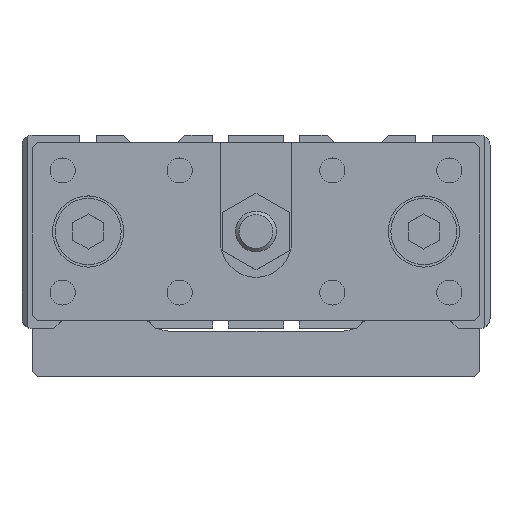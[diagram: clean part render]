
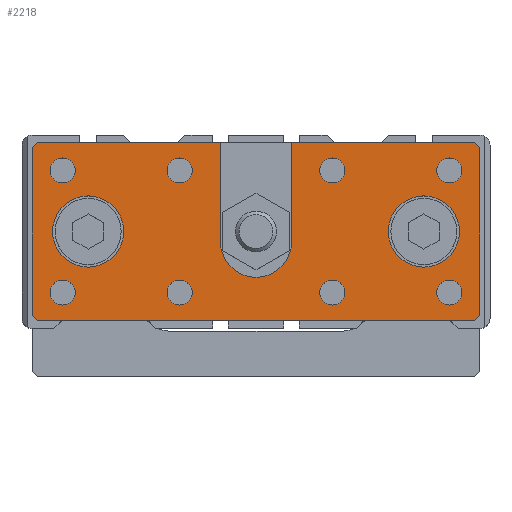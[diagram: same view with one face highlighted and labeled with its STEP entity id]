
A CAD part, top view. The second image highlights one B-rep face of the part: STEP entity #2218.
In plain terms, the highlighted planar face has unit normal (0, 0, 1).
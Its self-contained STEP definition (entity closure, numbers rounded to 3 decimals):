
#1988=CARTESIAN_POINT('',(-43.,-17.5,85.0));
#1989=VERTEX_POINT('',#1988);
#1996=CARTESIAN_POINT('',(-44.0,-16.5,85.0));
#1997=VERTEX_POINT('',#1996);
#1998=CARTESIAN_POINT('',(-43.,-17.5,85.0));
#1999=DIRECTION('',(-0.707,0.707,0.0));
#2000=VECTOR('',#1999,1.414);
#2001=LINE('',#1998,#2000);
#2002=EDGE_CURVE('',#1989,#1997,#2001,.T.);
#2013=CARTESIAN_POINT('',(0.0,-17.5,85.0));
#2014=DIRECTION('',(0.0,0.0,1.0));
#2015=DIRECTION('',(1.0,0.0,0.0));
#2016=AXIS2_PLACEMENT_3D('',#2013,#2014,#2015);
#2017=PLANE('',#2016);
#2018=ORIENTED_EDGE('',*,*,#2002,.F.);
#2019=CARTESIAN_POINT('',(43.,-17.5,85.0));
#2020=VERTEX_POINT('',#2019);
#2021=CARTESIAN_POINT('',(-43.,-17.5,85.0));
#2022=DIRECTION('',(1.0,0.0,0.0));
#2023=VECTOR('',#2022,86.);
#2024=LINE('',#2021,#2023);
#2025=EDGE_CURVE('',#1989,#2020,#2024,.T.);
#2026=ORIENTED_EDGE('',*,*,#2025,.T.);
#2027=CARTESIAN_POINT('',(44.0,-16.5,85.0));
#2028=VERTEX_POINT('',#2027);
#2029=CARTESIAN_POINT('',(44.0,-16.5,85.0));
#2030=DIRECTION('',(-0.707,-0.707,0.0));
#2031=VECTOR('',#2030,1.414);
#2032=LINE('',#2029,#2031);
#2033=EDGE_CURVE('',#2028,#2020,#2032,.T.);
#2034=ORIENTED_EDGE('',*,*,#2033,.F.);
#2035=CARTESIAN_POINT('',(44.0,16.5,85.0));
#2036=VERTEX_POINT('',#2035);
#2037=CARTESIAN_POINT('',(44.0,-16.5,85.0));
#2038=DIRECTION('',(0.0,1.0,0.0));
#2039=VECTOR('',#2038,33.);
#2040=LINE('',#2037,#2039);
#2041=EDGE_CURVE('',#2028,#2036,#2040,.T.);
#2042=ORIENTED_EDGE('',*,*,#2041,.T.);
#2043=CARTESIAN_POINT('',(43.,17.5,85.0));
#2044=VERTEX_POINT('',#2043);
#2045=CARTESIAN_POINT('',(43.,17.5,85.0));
#2046=DIRECTION('',(0.707,-0.707,0.0));
#2047=VECTOR('',#2046,1.414);
#2048=LINE('',#2045,#2047);
#2049=EDGE_CURVE('',#2044,#2036,#2048,.T.);
#2050=ORIENTED_EDGE('',*,*,#2049,.F.);
#2051=CARTESIAN_POINT('',(7.,17.5,85.0));
#2052=VERTEX_POINT('',#2051);
#2053=CARTESIAN_POINT('',(43.,17.5,85.0));
#2054=DIRECTION('',(-1.0,0.0,0.0));
#2055=VECTOR('',#2054,36.);
#2056=LINE('',#2053,#2055);
#2057=EDGE_CURVE('',#2044,#2052,#2056,.T.);
#2058=ORIENTED_EDGE('',*,*,#2057,.T.);
#2059=CARTESIAN_POINT('',(7.,-2.,85.0));
#2060=VERTEX_POINT('',#2059);
#2061=CARTESIAN_POINT('',(7.,17.5,85.0));
#2062=DIRECTION('',(0.0,-1.0,0.0));
#2063=VECTOR('',#2062,19.5);
#2064=LINE('',#2061,#2063);
#2065=EDGE_CURVE('',#2052,#2060,#2064,.T.);
#2066=ORIENTED_EDGE('',*,*,#2065,.T.);
#2067=CARTESIAN_POINT('',(-7.,-2.,85.0));
#2068=VERTEX_POINT('',#2067);
#2069=CARTESIAN_POINT('',(0.0,-2.,85.0));
#2070=DIRECTION('',(0.0,0.0,-1.0));
#2071=DIRECTION('',(1.0,0.0,0.0));
#2072=AXIS2_PLACEMENT_3D('',#2069,#2070,#2071);
#2073=CIRCLE('',#2072,7.);
#2074=EDGE_CURVE('',#2060,#2068,#2073,.T.);
#2075=ORIENTED_EDGE('',*,*,#2074,.T.);
#2076=CARTESIAN_POINT('',(-7.,17.5,85.0));
#2077=VERTEX_POINT('',#2076);
#2078=CARTESIAN_POINT('',(-7.,-2.,85.0));
#2079=DIRECTION('',(0.0,1.0,0.0));
#2080=VECTOR('',#2079,19.5);
#2081=LINE('',#2078,#2080);
#2082=EDGE_CURVE('',#2068,#2077,#2081,.T.);
#2083=ORIENTED_EDGE('',*,*,#2082,.T.);
#2084=CARTESIAN_POINT('',(-43.,17.5,85.0));
#2085=VERTEX_POINT('',#2084);
#2086=CARTESIAN_POINT('',(-7.,17.5,85.0));
#2087=DIRECTION('',(-1.0,0.0,0.0));
#2088=VECTOR('',#2087,36.);
#2089=LINE('',#2086,#2088);
#2090=EDGE_CURVE('',#2077,#2085,#2089,.T.);
#2091=ORIENTED_EDGE('',*,*,#2090,.T.);
#2092=CARTESIAN_POINT('',(-44.0,16.5,85.0));
#2093=VERTEX_POINT('',#2092);
#2094=CARTESIAN_POINT('',(-44.0,16.5,85.0));
#2095=DIRECTION('',(0.707,0.707,0.0));
#2096=VECTOR('',#2095,1.414);
#2097=LINE('',#2094,#2096);
#2098=EDGE_CURVE('',#2093,#2085,#2097,.T.);
#2099=ORIENTED_EDGE('',*,*,#2098,.F.);
#2100=CARTESIAN_POINT('',(-44.0,16.5,85.0));
#2101=DIRECTION('',(0.0,-1.0,0.0));
#2102=VECTOR('',#2101,33.);
#2103=LINE('',#2100,#2102);
#2104=EDGE_CURVE('',#2093,#1997,#2103,.T.);
#2105=ORIENTED_EDGE('',*,*,#2104,.T.);
#2106=EDGE_LOOP('',(#2018,#2026,#2034,#2042,#2050,#2058,#2066,#2075,#2083,#2091,#2099,#2105));
#2107=FACE_OUTER_BOUND('',#2106,.T.);
#2108=CARTESIAN_POINT('',(40.,0.,85.0));
#2109=VERTEX_POINT('',#2108);
#2110=CARTESIAN_POINT('',(33.,0.0,85.0));
#2111=DIRECTION('',(0.0,0.0,-1.0));
#2112=DIRECTION('',(-1.0,0.0,0.0));
#2113=AXIS2_PLACEMENT_3D('',#2110,#2111,#2112);
#2114=CIRCLE('',#2113,7.);
#2115=EDGE_CURVE('',#2109,#2109,#2114,.T.);
#2116=ORIENTED_EDGE('',*,*,#2115,.T.);
#2117=EDGE_LOOP('',(#2116));
#2118=FACE_BOUND('',#2117,.T.);
#2119=CARTESIAN_POINT('',(-26.0,0.,85.0));
#2120=VERTEX_POINT('',#2119);
#2121=CARTESIAN_POINT('',(-33.0,0.0,85.0));
#2122=DIRECTION('',(0.0,0.0,-1.0));
#2123=DIRECTION('',(-1.0,0.0,0.0));
#2124=AXIS2_PLACEMENT_3D('',#2121,#2122,#2123);
#2125=CIRCLE('',#2124,7.);
#2126=EDGE_CURVE('',#2120,#2120,#2125,.T.);
#2127=ORIENTED_EDGE('',*,*,#2126,.T.);
#2128=EDGE_LOOP('',(#2127));
#2129=FACE_BOUND('',#2128,.T.);
#2130=CARTESIAN_POINT('',(40.459,-12.,85.0));
#2131=VERTEX_POINT('',#2130);
#2132=CARTESIAN_POINT('',(38.,-12.,85.0));
#2133=DIRECTION('',(0.0,0.0,-1.0));
#2134=DIRECTION('',(1.0,0.0,0.0));
#2135=AXIS2_PLACEMENT_3D('',#2132,#2133,#2134);
#2136=CIRCLE('',#2135,2.459);
#2137=EDGE_CURVE('',#2131,#2131,#2136,.T.);
#2138=ORIENTED_EDGE('',*,*,#2137,.T.);
#2139=EDGE_LOOP('',(#2138));
#2140=FACE_BOUND('',#2139,.T.);
#2141=CARTESIAN_POINT('',(-35.542,-12.,85.0));
#2142=VERTEX_POINT('',#2141);
#2143=CARTESIAN_POINT('',(-38.0,-12.,85.0));
#2144=DIRECTION('',(0.0,0.0,-1.0));
#2145=DIRECTION('',(1.0,0.0,0.0));
#2146=AXIS2_PLACEMENT_3D('',#2143,#2144,#2145);
#2147=CIRCLE('',#2146,2.459);
#2148=EDGE_CURVE('',#2142,#2142,#2147,.T.);
#2149=ORIENTED_EDGE('',*,*,#2148,.T.);
#2150=EDGE_LOOP('',(#2149));
#2151=FACE_BOUND('',#2150,.T.);
#2152=CARTESIAN_POINT('',(40.459,12.,85.0));
#2153=VERTEX_POINT('',#2152);
#2154=CARTESIAN_POINT('',(38.,12.,85.0));
#2155=DIRECTION('',(0.0,0.0,-1.0));
#2156=DIRECTION('',(1.0,0.0,0.0));
#2157=AXIS2_PLACEMENT_3D('',#2154,#2155,#2156);
#2158=CIRCLE('',#2157,2.459);
#2159=EDGE_CURVE('',#2153,#2153,#2158,.T.);
#2160=ORIENTED_EDGE('',*,*,#2159,.T.);
#2161=EDGE_LOOP('',(#2160));
#2162=FACE_BOUND('',#2161,.T.);
#2163=CARTESIAN_POINT('',(17.459,-12.,85.0));
#2164=VERTEX_POINT('',#2163);
#2165=CARTESIAN_POINT('',(15.0,-12.,85.0));
#2166=DIRECTION('',(0.0,0.0,-1.0));
#2167=DIRECTION('',(1.0,0.0,0.0));
#2168=AXIS2_PLACEMENT_3D('',#2165,#2166,#2167);
#2169=CIRCLE('',#2168,2.459);
#2170=EDGE_CURVE('',#2164,#2164,#2169,.T.);
#2171=ORIENTED_EDGE('',*,*,#2170,.T.);
#2172=EDGE_LOOP('',(#2171));
#2173=FACE_BOUND('',#2172,.T.);
#2174=CARTESIAN_POINT('',(-12.542,-12.,85.0));
#2175=VERTEX_POINT('',#2174);
#2176=CARTESIAN_POINT('',(-15.0,-12.,85.0));
#2177=DIRECTION('',(0.0,0.0,-1.0));
#2178=DIRECTION('',(1.0,0.0,0.0));
#2179=AXIS2_PLACEMENT_3D('',#2176,#2177,#2178);
#2180=CIRCLE('',#2179,2.459);
#2181=EDGE_CURVE('',#2175,#2175,#2180,.T.);
#2182=ORIENTED_EDGE('',*,*,#2181,.T.);
#2183=EDGE_LOOP('',(#2182));
#2184=FACE_BOUND('',#2183,.T.);
#2185=CARTESIAN_POINT('',(17.459,12.,85.0));
#2186=VERTEX_POINT('',#2185);
#2187=CARTESIAN_POINT('',(15.0,12.,85.0));
#2188=DIRECTION('',(0.0,0.0,-1.0));
#2189=DIRECTION('',(1.0,0.0,0.0));
#2190=AXIS2_PLACEMENT_3D('',#2187,#2188,#2189);
#2191=CIRCLE('',#2190,2.459);
#2192=EDGE_CURVE('',#2186,#2186,#2191,.T.);
#2193=ORIENTED_EDGE('',*,*,#2192,.T.);
#2194=EDGE_LOOP('',(#2193));
#2195=FACE_BOUND('',#2194,.T.);
#2196=CARTESIAN_POINT('',(-12.542,12.,85.0));
#2197=VERTEX_POINT('',#2196);
#2198=CARTESIAN_POINT('',(-15.0,12.,85.0));
#2199=DIRECTION('',(0.0,0.0,-1.0));
#2200=DIRECTION('',(1.0,0.0,0.0));
#2201=AXIS2_PLACEMENT_3D('',#2198,#2199,#2200);
#2202=CIRCLE('',#2201,2.459);
#2203=EDGE_CURVE('',#2197,#2197,#2202,.T.);
#2204=ORIENTED_EDGE('',*,*,#2203,.T.);
#2205=EDGE_LOOP('',(#2204));
#2206=FACE_BOUND('',#2205,.T.);
#2207=CARTESIAN_POINT('',(-35.542,12.,85.0));
#2208=VERTEX_POINT('',#2207);
#2209=CARTESIAN_POINT('',(-38.0,12.,85.0));
#2210=DIRECTION('',(0.0,0.0,-1.0));
#2211=DIRECTION('',(1.0,0.0,0.0));
#2212=AXIS2_PLACEMENT_3D('',#2209,#2210,#2211);
#2213=CIRCLE('',#2212,2.459);
#2214=EDGE_CURVE('',#2208,#2208,#2213,.T.);
#2215=ORIENTED_EDGE('',*,*,#2214,.T.);
#2216=EDGE_LOOP('',(#2215));
#2217=FACE_BOUND('',#2216,.T.);
#2218=ADVANCED_FACE('',(#2107,#2118,#2129,#2140,#2151,#2162,#2173,#2184,#2195,#2206,#2217),#2017,.T.);
